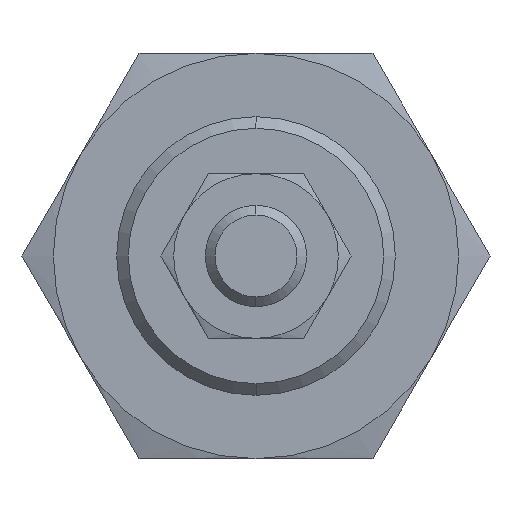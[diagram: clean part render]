
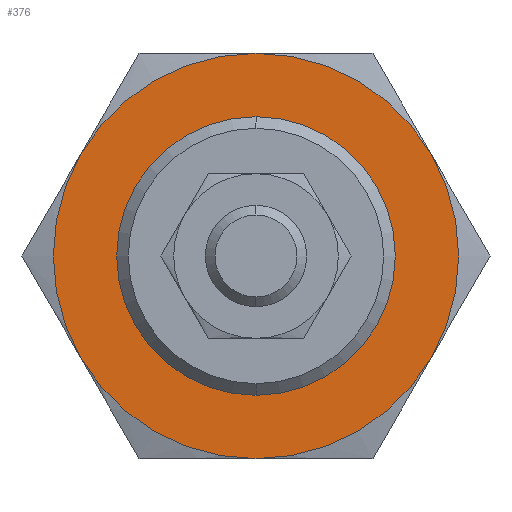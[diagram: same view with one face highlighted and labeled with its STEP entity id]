
A CAD part, left-side view. The second image highlights one B-rep face of the part: STEP entity #376.
In plain terms, the highlighted planar face has unit normal (-1, 0, 0).
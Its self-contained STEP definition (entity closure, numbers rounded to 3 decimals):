
#40 = ORIENTED_EDGE ( 'NONE', *, *, #981, .F. ) ;
#106 = VERTEX_POINT ( 'NONE', #3592 ) ;
#108 = DIRECTION ( 'NONE',  ( 0., 0., -1. ) ) ;
#136 = EDGE_CURVE ( 'NONE', #1828, #687, #3978, .T. ) ;
#137 = CARTESIAN_POINT ( 'NONE',  ( -16.5, 13.856, -8. ) ) ;
#176 = DIRECTION ( 'NONE',  ( 1., 0., 0. ) ) ;
#200 = CARTESIAN_POINT ( 'NONE',  ( -16.5, -13.856, 8. ) ) ;
#205 = PLANE ( 'NONE',  #2749 ) ;
#227 = CIRCLE ( 'NONE', #638, 16. ) ;
#249 = DIRECTION ( 'NONE',  ( 1., 0., 0. ) ) ;
#271 = AXIS2_PLACEMENT_3D ( 'NONE', #675, #868, #2482 ) ;
#376 = ADVANCED_FACE ( 'NONE', ( #1081, #3084 ), #205, .T. ) ;
#404 = EDGE_CURVE ( 'NONE', #1945, #1535, #3767, .T. ) ;
#421 = DIRECTION ( 'NONE',  ( 0., 0., 1. ) ) ;
#459 = CARTESIAN_POINT ( 'NONE',  ( -16.5, 0., -16. ) ) ;
#471 = DIRECTION ( 'NONE',  ( 0., 0., -1. ) ) ;
#476 = CIRCLE ( 'NONE', #1033, 16. ) ;
#594 = ORIENTED_EDGE ( 'NONE', *, *, #136, .F. ) ;
#638 = AXIS2_PLACEMENT_3D ( 'NONE', #3624, #3967, #2305 ) ;
#675 = CARTESIAN_POINT ( 'NONE',  ( -16.5, 0., 0. ) ) ;
#678 = VERTEX_POINT ( 'NONE', #2748 ) ;
#687 = VERTEX_POINT ( 'NONE', #137 ) ;
#863 = CIRCLE ( 'NONE', #2924, 16. ) ;
#868 = DIRECTION ( 'NONE',  ( 1., 0., 0. ) ) ;
#981 = EDGE_CURVE ( 'NONE', #1535, #1828, #476, .T. ) ;
#1033 = AXIS2_PLACEMENT_3D ( 'NONE', #2055, #176, #4088 ) ;
#1070 = AXIS2_PLACEMENT_3D ( 'NONE', #1750, #2742, #1774 ) ;
#1079 = ORIENTED_EDGE ( 'NONE', *, *, #2829, .T. ) ;
#1081 = FACE_OUTER_BOUND ( 'NONE', #1429, .T. ) ;
#1169 = AXIS2_PLACEMENT_3D ( 'NONE', #1389, #3993, #108 ) ;
#1359 = VERTEX_POINT ( 'NONE', #3889 ) ;
#1389 = CARTESIAN_POINT ( 'NONE',  ( -16.5, 0., 0. ) ) ;
#1407 = ORIENTED_EDGE ( 'NONE', *, *, #3842, .F. ) ;
#1429 = EDGE_LOOP ( 'NONE', ( #2738, #594, #40, #2472, #1407, #3652 ) ) ;
#1484 = CIRCLE ( 'NONE', #3392, 11. ) ;
#1535 = VERTEX_POINT ( 'NONE', #3482 ) ;
#1560 = CIRCLE ( 'NONE', #3805, 11. ) ;
#1735 = CARTESIAN_POINT ( 'NONE',  ( -16.5, 0., 0. ) ) ;
#1750 = CARTESIAN_POINT ( 'NONE',  ( -16.5, 0., 0. ) ) ;
#1774 = DIRECTION ( 'NONE',  ( 0., 0., -1. ) ) ;
#1828 = VERTEX_POINT ( 'NONE', #459 ) ;
#1945 = VERTEX_POINT ( 'NONE', #200 ) ;
#2039 = DIRECTION ( 'NONE',  ( 1., 0., 0. ) ) ;
#2055 = CARTESIAN_POINT ( 'NONE',  ( -16.5, 0., 0. ) ) ;
#2177 = CIRCLE ( 'NONE', #1070, 16. ) ;
#2305 = DIRECTION ( 'NONE',  ( 0., 0., -1. ) ) ;
#2472 = ORIENTED_EDGE ( 'NONE', *, *, #404, .F. ) ;
#2482 = DIRECTION ( 'NONE',  ( 0., 0., -1. ) ) ;
#2517 = EDGE_CURVE ( 'NONE', #687, #106, #227, .T. ) ;
#2738 = ORIENTED_EDGE ( 'NONE', *, *, #2517, .F. ) ;
#2742 = DIRECTION ( 'NONE',  ( 1., 0., 0. ) ) ;
#2748 = CARTESIAN_POINT ( 'NONE',  ( -16.5, 0., -11. ) ) ;
#2749 = AXIS2_PLACEMENT_3D ( 'NONE', #3040, #3337, #421 ) ;
#2763 = CARTESIAN_POINT ( 'NONE',  ( -16.5, 0., 0. ) ) ;
#2800 = EDGE_LOOP ( 'NONE', ( #1079, #3494 ) ) ;
#2829 = EDGE_CURVE ( 'NONE', #3819, #678, #1484, .T. ) ;
#2839 = DIRECTION ( 'NONE',  ( 0., 0., -1. ) ) ;
#2924 = AXIS2_PLACEMENT_3D ( 'NONE', #1735, #2039, #4067 ) ;
#3040 = CARTESIAN_POINT ( 'NONE',  ( -16.5, 16., 0. ) ) ;
#3084 = FACE_BOUND ( 'NONE', #2800, .T. ) ;
#3106 = DIRECTION ( 'NONE',  ( 1., 0., 0. ) ) ;
#3337 = DIRECTION ( 'NONE',  ( -1., 0., 0. ) ) ;
#3377 = EDGE_CURVE ( 'NONE', #106, #1359, #863, .T. ) ;
#3392 = AXIS2_PLACEMENT_3D ( 'NONE', #4123, #249, #2839 ) ;
#3482 = CARTESIAN_POINT ( 'NONE',  ( -16.5, -13.856, -8. ) ) ;
#3494 = ORIENTED_EDGE ( 'NONE', *, *, #3761, .T. ) ;
#3592 = CARTESIAN_POINT ( 'NONE',  ( -16.5, 13.856, 8. ) ) ;
#3624 = CARTESIAN_POINT ( 'NONE',  ( -16.5, 0., 0. ) ) ;
#3652 = ORIENTED_EDGE ( 'NONE', *, *, #3377, .F. ) ;
#3761 = EDGE_CURVE ( 'NONE', #678, #3819, #1560, .T. ) ;
#3767 = CIRCLE ( 'NONE', #1169, 16. ) ;
#3805 = AXIS2_PLACEMENT_3D ( 'NONE', #2763, #3106, #471 ) ;
#3819 = VERTEX_POINT ( 'NONE', #4063 ) ;
#3842 = EDGE_CURVE ( 'NONE', #1359, #1945, #2177, .T. ) ;
#3889 = CARTESIAN_POINT ( 'NONE',  ( -16.5, 0., 16. ) ) ;
#3967 = DIRECTION ( 'NONE',  ( 1., 0., 0. ) ) ;
#3978 = CIRCLE ( 'NONE', #271, 16. ) ;
#3993 = DIRECTION ( 'NONE',  ( 1., 0., 0. ) ) ;
#4063 = CARTESIAN_POINT ( 'NONE',  ( -16.5, 0., 11. ) ) ;
#4067 = DIRECTION ( 'NONE',  ( 0., 0., -1. ) ) ;
#4088 = DIRECTION ( 'NONE',  ( 0., 0., -1. ) ) ;
#4123 = CARTESIAN_POINT ( 'NONE',  ( -16.5, 0., 0. ) ) ;
